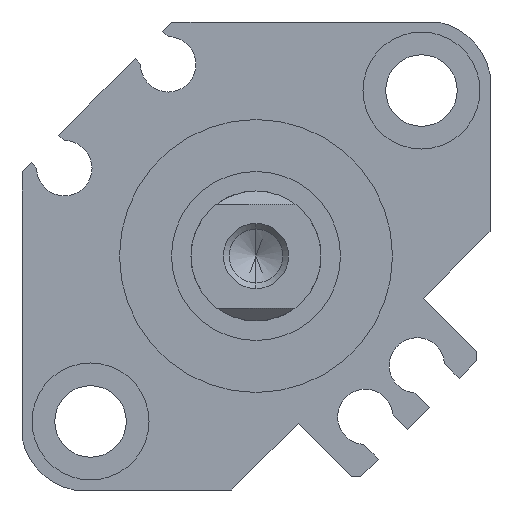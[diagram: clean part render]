
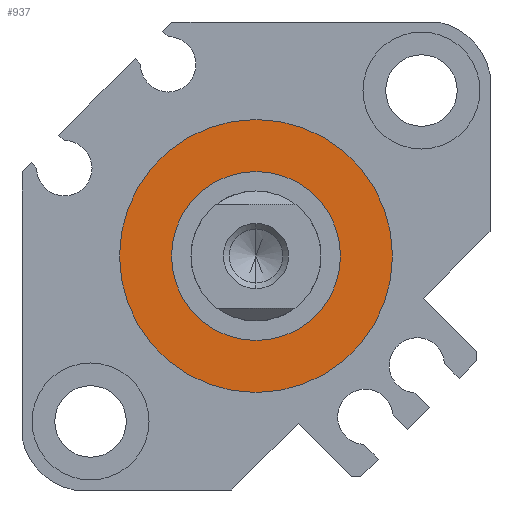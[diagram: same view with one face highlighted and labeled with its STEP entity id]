
A CAD part, left-side view. The second image highlights one B-rep face of the part: STEP entity #937.
In plain terms, the highlighted planar face has unit normal (-1, 0, 0).
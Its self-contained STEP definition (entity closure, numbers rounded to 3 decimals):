
#36 = ORIENTED_EDGE ( 'NONE', *, *, #3381, .F. ) ;
#39 = EDGE_CURVE ( 'NONE', #899, #1871, #2935, .T. ) ;
#80 = EDGE_CURVE ( 'NONE', #2502, #3134, #1457, .T. ) ;
#114 = CARTESIAN_POINT ( 'NONE',  ( 1.6, 0., 0. ) ) ;
#191 = AXIS2_PLACEMENT_3D ( 'NONE', #1189, #1773, #453 ) ;
#222 = CIRCLE ( 'NONE', #3194, 10.5 ) ;
#359 = DIRECTION ( 'NONE',  ( 1., 0., 0. ) ) ;
#453 = DIRECTION ( 'NONE',  ( 0., 0., -1. ) ) ;
#587 = EDGE_CURVE ( 'NONE', #1871, #899, #1563, .T. ) ;
#766 = CARTESIAN_POINT ( 'NONE',  ( 1.6, 0., 10.5 ) ) ;
#899 = VERTEX_POINT ( 'NONE', #2465 ) ;
#937 = ADVANCED_FACE ( 'NONE', ( #3195, #1142 ), #1889, .F. ) ;
#1010 = ORIENTED_EDGE ( 'NONE', *, *, #39, .T. ) ;
#1103 = CARTESIAN_POINT ( 'NONE',  ( 1.6, 0., 0. ) ) ;
#1142 = FACE_BOUND ( 'NONE', #1552, .T. ) ;
#1149 = DIRECTION ( 'NONE',  ( 0., 0., -1. ) ) ;
#1173 = DIRECTION ( 'NONE',  ( 1., 0., 0. ) ) ;
#1189 = CARTESIAN_POINT ( 'NONE',  ( 1.6, 0., 0. ) ) ;
#1226 = ORIENTED_EDGE ( 'NONE', *, *, #587, .T. ) ;
#1457 = CIRCLE ( 'NONE', #1684, 10.5 ) ;
#1552 = EDGE_LOOP ( 'NONE', ( #1010, #1226 ) ) ;
#1563 = CIRCLE ( 'NONE', #191, 6.5 ) ;
#1597 = AXIS2_PLACEMENT_3D ( 'NONE', #1103, #1968, #2161 ) ;
#1684 = AXIS2_PLACEMENT_3D ( 'NONE', #114, #1173, #1978 ) ;
#1713 = CARTESIAN_POINT ( 'NONE',  ( 1.6, 0., -6.5 ) ) ;
#1773 = DIRECTION ( 'NONE',  ( 1., 0., 0. ) ) ;
#1871 = VERTEX_POINT ( 'NONE', #1713 ) ;
#1889 = PLANE ( 'NONE',  #1597 ) ;
#1920 = CARTESIAN_POINT ( 'NONE',  ( 1.6, 0., 0. ) ) ;
#1968 = DIRECTION ( 'NONE',  ( 1., 0., 0. ) ) ;
#1978 = DIRECTION ( 'NONE',  ( 0., 0., -1. ) ) ;
#2039 = CARTESIAN_POINT ( 'NONE',  ( 1.6, 0., -10.5 ) ) ;
#2161 = DIRECTION ( 'NONE',  ( 0., 1., 0. ) ) ;
#2172 = ORIENTED_EDGE ( 'NONE', *, *, #80, .F. ) ;
#2209 = DIRECTION ( 'NONE',  ( 1., 0., 0. ) ) ;
#2465 = CARTESIAN_POINT ( 'NONE',  ( 1.6, 0., 6.5 ) ) ;
#2502 = VERTEX_POINT ( 'NONE', #766 ) ;
#2688 = EDGE_LOOP ( 'NONE', ( #2172, #36 ) ) ;
#2935 = CIRCLE ( 'NONE', #3163, 6.5 ) ;
#2964 = DIRECTION ( 'NONE',  ( 0., 0., -1. ) ) ;
#3134 = VERTEX_POINT ( 'NONE', #2039 ) ;
#3163 = AXIS2_PLACEMENT_3D ( 'NONE', #3286, #359, #1149 ) ;
#3194 = AXIS2_PLACEMENT_3D ( 'NONE', #1920, #2209, #2964 ) ;
#3195 = FACE_OUTER_BOUND ( 'NONE', #2688, .T. ) ;
#3286 = CARTESIAN_POINT ( 'NONE',  ( 1.6, 0., 0. ) ) ;
#3381 = EDGE_CURVE ( 'NONE', #3134, #2502, #222, .T. ) ;
